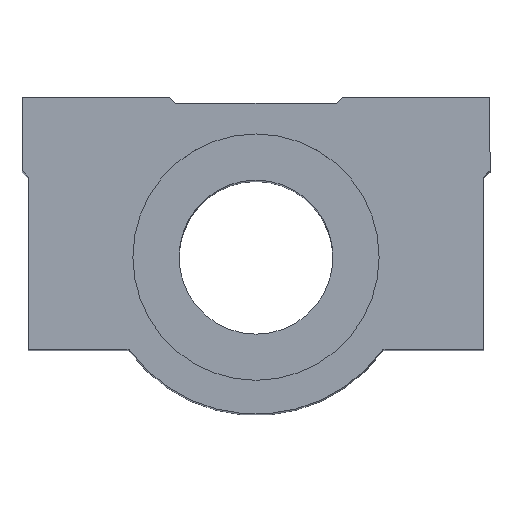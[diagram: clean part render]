
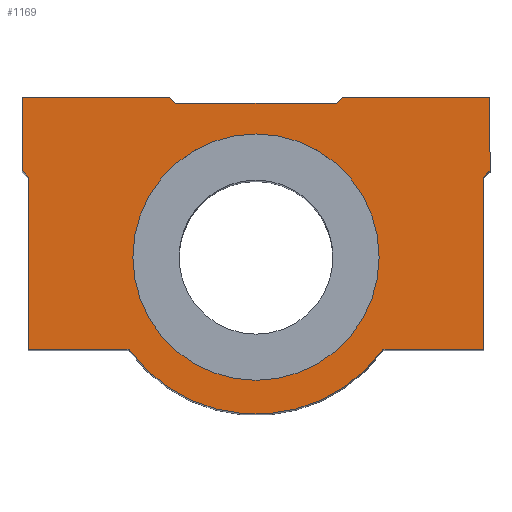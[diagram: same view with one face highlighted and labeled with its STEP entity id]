
A CAD part, top view. The second image highlights one B-rep face of the part: STEP entity #1169.
In plain terms, the highlighted planar face has unit normal (0, 0, 1).
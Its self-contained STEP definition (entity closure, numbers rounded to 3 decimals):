
#91=CARTESIAN_POINT('',(-20.709,4.198,128.0));
#92=VERTEX_POINT('',#91);
#101=CARTESIAN_POINT('',(19.291,4.198,128.0));
#102=VERTEX_POINT('',#101);
#103=CARTESIAN_POINT('',(-0.709,4.198,128.0));
#104=DIRECTION('',(0.0,0.0,-1.0));
#105=DIRECTION('',(-1.0,0.0,0.0));
#106=AXIS2_PLACEMENT_3D('',#103,#104,#105);
#107=CIRCLE('',#106,20.0);
#108=EDGE_CURVE('',#102,#92,#107,.T.);
#640=CARTESIAN_POINT('',(-0.709,4.198,128.0));
#641=DIRECTION('',(0.0,0.0,-1.0));
#642=DIRECTION('',(-1.0,0.0,0.0));
#643=AXIS2_PLACEMENT_3D('',#640,#641,#642);
#644=CIRCLE('',#643,20.0);
#645=EDGE_CURVE('',#92,#102,#644,.T.);
#780=CARTESIAN_POINT('',(37.291,18.198,128.0));
#781=VERTEX_POINT('',#780);
#782=CARTESIAN_POINT('',(36.291,17.198,128.0));
#783=VERTEX_POINT('',#782);
#784=CARTESIAN_POINT('',(37.291,18.198,128.0));
#785=DIRECTION('',(-0.707,-0.707,0.0));
#786=VECTOR('',#785,1.414);
#787=LINE('',#784,#786);
#788=EDGE_CURVE('',#781,#783,#787,.T.);
#811=CARTESIAN_POINT('',(36.291,-10.802,128.0));
#812=VERTEX_POINT('',#811);
#813=CARTESIAN_POINT('',(36.291,17.198,128.0));
#814=DIRECTION('',(0.0,-1.0,0.0));
#815=VECTOR('',#814,28.);
#816=LINE('',#813,#815);
#817=EDGE_CURVE('',#783,#812,#816,.T.);
#835=CARTESIAN_POINT('',(19.913,-10.802,128.0));
#836=VERTEX_POINT('',#835);
#837=CARTESIAN_POINT('',(36.291,-10.802,128.0));
#838=DIRECTION('',(-1.0,0.0,0.0));
#839=VECTOR('',#838,16.378);
#840=LINE('',#837,#839);
#841=EDGE_CURVE('',#812,#836,#840,.T.);
#867=CARTESIAN_POINT('',(-21.33,-10.802,128.0));
#868=VERTEX_POINT('',#867);
#869=CARTESIAN_POINT('',(-0.709,4.198,128.0));
#870=DIRECTION('',(0.0,0.0,-1.));
#871=DIRECTION('',(0.809,0.588,0.0));
#872=AXIS2_PLACEMENT_3D('',#869,#870,#871);
#873=CIRCLE('',#872,25.5);
#874=EDGE_CURVE('',#836,#868,#873,.T.);
#892=CARTESIAN_POINT('',(-37.709,-10.802,128.0));
#893=VERTEX_POINT('',#892);
#894=CARTESIAN_POINT('',(-21.33,-10.802,128.0));
#895=DIRECTION('',(-1.0,0.0,0.0));
#896=VECTOR('',#895,16.378);
#897=LINE('',#894,#896);
#898=EDGE_CURVE('',#868,#893,#897,.T.);
#924=CARTESIAN_POINT('',(-37.709,17.198,128.0));
#925=VERTEX_POINT('',#924);
#926=CARTESIAN_POINT('',(-37.709,-10.802,128.0));
#927=DIRECTION('',(0.0,1.0,0.0));
#928=VECTOR('',#927,28.);
#929=LINE('',#926,#928);
#930=EDGE_CURVE('',#893,#925,#929,.T.);
#948=CARTESIAN_POINT('',(-38.709,18.198,128.0));
#949=VERTEX_POINT('',#948);
#950=CARTESIAN_POINT('',(-37.709,17.198,128.0));
#951=DIRECTION('',(-0.707,0.707,0.0));
#952=VECTOR('',#951,1.414);
#953=LINE('',#950,#952);
#954=EDGE_CURVE('',#925,#949,#953,.T.);
#972=CARTESIAN_POINT('',(-38.709,30.198,128.0));
#973=VERTEX_POINT('',#972);
#974=CARTESIAN_POINT('',(-38.709,18.198,128.0));
#975=DIRECTION('',(0.0,1.0,0.0));
#976=VECTOR('',#975,12.);
#977=LINE('',#974,#976);
#978=EDGE_CURVE('',#949,#973,#977,.T.);
#996=CARTESIAN_POINT('',(-14.709,30.198,128.0));
#997=VERTEX_POINT('',#996);
#998=CARTESIAN_POINT('',(-38.709,30.198,128.0));
#999=DIRECTION('',(1.0,0.0,0.0));
#1000=VECTOR('',#999,24.0);
#1001=LINE('',#998,#1000);
#1002=EDGE_CURVE('',#973,#997,#1001,.T.);
#1028=CARTESIAN_POINT('',(-13.709,29.198,128.0));
#1029=VERTEX_POINT('',#1028);
#1030=CARTESIAN_POINT('',(-14.709,30.198,128.0));
#1031=DIRECTION('',(0.707,-0.707,0.0));
#1032=VECTOR('',#1031,1.414);
#1033=LINE('',#1030,#1032);
#1034=EDGE_CURVE('',#997,#1029,#1033,.T.);
#1052=CARTESIAN_POINT('',(12.291,29.198,128.0));
#1053=VERTEX_POINT('',#1052);
#1054=CARTESIAN_POINT('',(-13.709,29.198,128.0));
#1055=DIRECTION('',(1.0,0.0,0.0));
#1056=VECTOR('',#1055,26.0);
#1057=LINE('',#1054,#1056);
#1058=EDGE_CURVE('',#1029,#1053,#1057,.T.);
#1076=CARTESIAN_POINT('',(13.291,30.198,128.0));
#1077=VERTEX_POINT('',#1076);
#1078=CARTESIAN_POINT('',(12.291,29.198,128.0));
#1079=DIRECTION('',(0.707,0.707,0.0));
#1080=VECTOR('',#1079,1.414);
#1081=LINE('',#1078,#1080);
#1082=EDGE_CURVE('',#1053,#1077,#1081,.T.);
#1100=CARTESIAN_POINT('',(37.291,30.198,128.0));
#1101=VERTEX_POINT('',#1100);
#1102=CARTESIAN_POINT('',(13.291,30.198,128.0));
#1103=DIRECTION('',(1.0,0.0,0.0));
#1104=VECTOR('',#1103,24.);
#1105=LINE('',#1102,#1104);
#1106=EDGE_CURVE('',#1077,#1101,#1105,.T.);
#1132=CARTESIAN_POINT('',(37.291,30.198,128.0));
#1133=DIRECTION('',(0.0,-1.0,0.0));
#1134=VECTOR('',#1133,12.);
#1135=LINE('',#1132,#1134);
#1136=EDGE_CURVE('',#1101,#781,#1135,.T.);
#1144=CARTESIAN_POINT('',(-0.709,8.034,128.0));
#1145=DIRECTION('',(0.0,0.0,1.0));
#1146=DIRECTION('',(1.0,0.0,0.0));
#1147=AXIS2_PLACEMENT_3D('',#1144,#1145,#1146);
#1148=PLANE('',#1147);
#1149=ORIENTED_EDGE('',*,*,#788,.F.);
#1150=ORIENTED_EDGE('',*,*,#1136,.F.);
#1151=ORIENTED_EDGE('',*,*,#1106,.F.);
#1152=ORIENTED_EDGE('',*,*,#1082,.F.);
#1153=ORIENTED_EDGE('',*,*,#1058,.F.);
#1154=ORIENTED_EDGE('',*,*,#1034,.F.);
#1155=ORIENTED_EDGE('',*,*,#1002,.F.);
#1156=ORIENTED_EDGE('',*,*,#978,.F.);
#1157=ORIENTED_EDGE('',*,*,#954,.F.);
#1158=ORIENTED_EDGE('',*,*,#930,.F.);
#1159=ORIENTED_EDGE('',*,*,#898,.F.);
#1160=ORIENTED_EDGE('',*,*,#874,.F.);
#1161=ORIENTED_EDGE('',*,*,#841,.F.);
#1162=ORIENTED_EDGE('',*,*,#817,.F.);
#1163=EDGE_LOOP('',(#1149,#1150,#1151,#1152,#1153,#1154,#1155,#1156,#1157,#1158,#1159,#1160,#1161,#1162));
#1164=FACE_OUTER_BOUND('',#1163,.T.);
#1165=ORIENTED_EDGE('',*,*,#108,.T.);
#1166=ORIENTED_EDGE('',*,*,#645,.T.);
#1167=EDGE_LOOP('',(#1165,#1166));
#1168=FACE_BOUND('',#1167,.T.);
#1169=ADVANCED_FACE('',(#1164,#1168),#1148,.T.);
